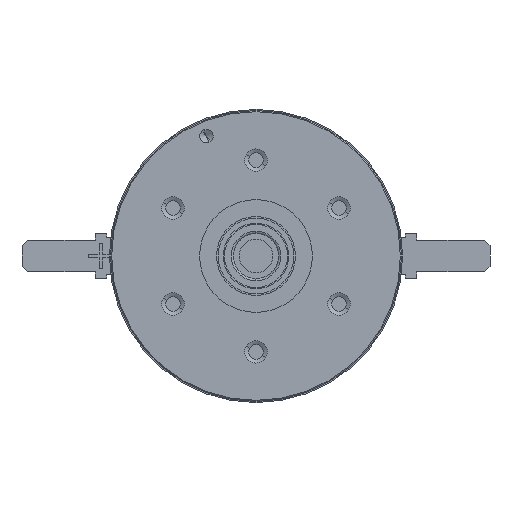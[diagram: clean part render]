
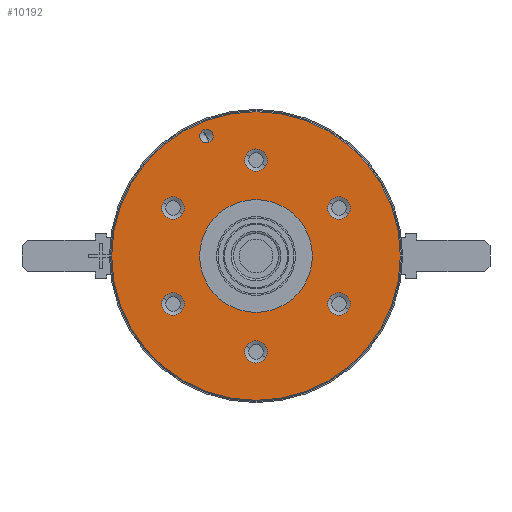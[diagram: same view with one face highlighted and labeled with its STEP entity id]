
A CAD part, left-side view. The second image highlights one B-rep face of the part: STEP entity #10192.
In plain terms, the highlighted planar face has unit normal (-1, 0, 0).
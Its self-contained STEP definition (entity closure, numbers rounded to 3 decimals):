
#7048=VERTEX_POINT('',#20060);
#7356=EDGE_CURVE('',#14700,#16888,#20392,.T.);
#7578=EDGE_CURVE('',#14126,#17198,#20633,.T.);
#8096=EDGE_CURVE('',#10340,#7048,#21225,.T.);
#8116=VERTEX_POINT('',#21247);
#8128=VERTEX_POINT('',#21260);
#8600=EDGE_CURVE('',#17130,#12124,#21784,.T.);
#8654=EDGE_CURVE('',#8116,#12608,#21849,.T.);
#9168=EDGE_CURVE('',#9896,#19436,#22419,.T.);
#9896=VERTEX_POINT('',#23239);
#9968=EDGE_CURVE('',#14922,#15068,#23318,.T.);
#10192=ADVANCED_FACE('',(#23561,#23562,#23563,#23564,#23565,#23566,#23567,#23568,#23569),#23570,.T.);
#10340=VERTEX_POINT('',#23730);
#11530=EDGE_CURVE('',#13012,#17890,#25046,.T.);
#11552=EDGE_CURVE('',#7048,#10340,#25070,.T.);
#12124=VERTEX_POINT('',#25714);
#12608=VERTEX_POINT('',#26246);
#12892=EDGE_CURVE('',#16578,#8128,#26568,.T.);
#13012=VERTEX_POINT('',#26700);
#13610=EDGE_CURVE('',#15068,#14922,#27361,.T.);
#14126=VERTEX_POINT('',#27941);
#14700=VERTEX_POINT('',#28570);
#14922=VERTEX_POINT('',#28811);
#15068=VERTEX_POINT('',#28973);
#15386=EDGE_CURVE('',#17198,#14126,#29326,.T.);
#16170=EDGE_CURVE('',#8128,#16578,#30183,.T.);
#16578=VERTEX_POINT('',#30643);
#16788=EDGE_CURVE('',#16888,#14700,#30871,.T.);
#16888=VERTEX_POINT('',#30977);
#17130=VERTEX_POINT('',#31242);
#17198=VERTEX_POINT('',#31320);
#17202=EDGE_CURVE('',#12124,#17130,#31324,.T.);
#17698=EDGE_CURVE('',#19436,#9896,#31871,.T.);
#17820=EDGE_CURVE('',#17890,#13012,#32006,.T.);
#17890=VERTEX_POINT('',#32088);
#19436=VERTEX_POINT('',#33790);
#19454=EDGE_CURVE('',#12608,#8116,#33809,.T.);
#20060=CARTESIAN_POINT('',(0.,-6.495,4.75));
#20392=CIRCLE('',#35081,1.0);
#20633=CIRCLE('',#35418,0.6);
#21225=CIRCLE('',#36243,1.0);
#21247=CARTESIAN_POINT('',(0.,-6.495,-3.75));
#21260=CARTESIAN_POINT('',(0.,0.866,-8.0));
#21784=CIRCLE('',#37012,5.0);
#21849=CIRCLE('',#37091,1.0);
#22419=CIRCLE('',#37872,1.0);
#23239=CARTESIAN_POINT('',(0.,0.866,9.0));
#23318=CIRCLE('',#39153,12.8);
#23561=FACE_BOUND('',#39479,.T.);
#23562=FACE_OUTER_BOUND('',#39480,.T.);
#23563=FACE_BOUND('',#39481,.T.);
#23564=FACE_BOUND('',#39482,.T.);
#23565=FACE_BOUND('',#39483,.T.);
#23566=FACE_BOUND('',#39484,.T.);
#23567=FACE_BOUND('',#39485,.T.);
#23568=FACE_BOUND('',#39486,.T.);
#23569=FACE_BOUND('',#39487,.T.);
#23570=PLANE('',#39488);
#23730=CARTESIAN_POINT('',(0.,-8.227,3.75));
#25046=CIRCLE('',#41549,1.0);
#25070=CIRCLE('',#41582,1.0);
#25714=CARTESIAN_POINT('',(0.0,0.,-5.0));
#26246=CARTESIAN_POINT('',(0.,-8.227,-4.75));
#26568=CIRCLE('',#43627,1.0);
#26700=CARTESIAN_POINT('',(0.,8.227,4.75));
#27361=CIRCLE('',#44745,12.8);
#27941=CARTESIAN_POINT('',(0.,4.171,10.07));
#28570=CARTESIAN_POINT('',(0.,8.227,-3.75));
#28811=CARTESIAN_POINT('',(0.0,0.,-12.8));
#28973=CARTESIAN_POINT('',(0.0,0.0,12.8));
#29326=CIRCLE('',#47483,0.6);
#30183=CIRCLE('',#48651,1.0);
#30643=CARTESIAN_POINT('',(0.,-0.866,-9.0));
#30871=CIRCLE('',#49595,1.0);
#30977=CARTESIAN_POINT('',(0.,6.495,-4.75));
#31242=CARTESIAN_POINT('',(0.0,0.0,5.0));
#31320=CARTESIAN_POINT('',(0.,4.63,11.179));
#31324=CIRCLE('',#50225,5.0);
#31871=CIRCLE('',#50997,1.0);
#32006=CIRCLE('',#51186,1.0);
#32088=CARTESIAN_POINT('',(0.,6.495,3.75));
#33790=CARTESIAN_POINT('',(0.,-0.866,8.0));
#33809=CIRCLE('',#53712,1.0);
#35081=AXIS2_PLACEMENT_3D('',#54679,#54680,#54681);
#35418=AXIS2_PLACEMENT_3D('',#54910,#54911,#54912);
#36243=AXIS2_PLACEMENT_3D('',#55700,#55701,#55702);
#37012=AXIS2_PLACEMENT_3D('',#56346,#56347,#56348);
#37091=AXIS2_PLACEMENT_3D('',#56464,#56465,#56466);
#37872=AXIS2_PLACEMENT_3D('',#57107,#57108,#57109);
#39153=AXIS2_PLACEMENT_3D('',#58408,#58409,#58410);
#39479=EDGE_LOOP('',(#58641,#58642));
#39480=EDGE_LOOP('',(#58643,#58644));
#39481=EDGE_LOOP('',(#58645,#58646));
#39482=EDGE_LOOP('',(#58647,#58648));
#39483=EDGE_LOOP('',(#58649,#58650));
#39484=EDGE_LOOP('',(#58651,#58652));
#39485=EDGE_LOOP('',(#58653,#58654));
#39486=EDGE_LOOP('',(#58655,#58656));
#39487=EDGE_LOOP('',(#58657,#58658));
#39488=AXIS2_PLACEMENT_3D('',#58659,#58660,#58661);
#41549=AXIS2_PLACEMENT_3D('',#60357,#60358,#60359);
#41582=AXIS2_PLACEMENT_3D('',#60380,#60381,#60382);
#43627=AXIS2_PLACEMENT_3D('',#62166,#62167,#62168);
#44745=AXIS2_PLACEMENT_3D('',#63108,#63109,#63110);
#47483=AXIS2_PLACEMENT_3D('',#65391,#65392,#65393);
#48651=AXIS2_PLACEMENT_3D('',#66377,#66378,#66379);
#49595=AXIS2_PLACEMENT_3D('',#67206,#67207,#67208);
#50225=AXIS2_PLACEMENT_3D('',#67696,#67697,#67698);
#50997=AXIS2_PLACEMENT_3D('',#68293,#68294,#68295);
#51186=AXIS2_PLACEMENT_3D('',#68456,#68457,#68458);
#53712=AXIS2_PLACEMENT_3D('',#70447,#70448,#70449);
#54679=CARTESIAN_POINT('',(0.,7.361,-4.25));
#54680=DIRECTION('',(1.0,0.0,-0.0));
#54681=DIRECTION('',(0.0,0.866,0.5));
#54910=CARTESIAN_POINT('',(0.,4.401,10.625));
#54911=DIRECTION('',(1.0,0.0,0.0));
#54912=DIRECTION('',(0.0,-0.383,-0.924));
#55700=CARTESIAN_POINT('',(0.,-7.361,4.25));
#55701=DIRECTION('',(1.0,0.0,-0.0));
#55702=DIRECTION('',(0.0,0.866,0.5));
#56346=CARTESIAN_POINT('',(0.0,0.0,0.0));
#56347=DIRECTION('',(1.0,0.0,-0.0));
#56348=DIRECTION('',(0.0,0.0,1.0));
#56464=CARTESIAN_POINT('',(0.,-7.361,-4.25));
#56465=DIRECTION('',(1.0,0.0,-0.0));
#56466=DIRECTION('',(0.0,0.866,0.5));
#57107=CARTESIAN_POINT('',(0.,0.0,8.5));
#57108=DIRECTION('',(1.0,0.0,-0.0));
#57109=DIRECTION('',(0.0,0.866,0.5));
#58408=CARTESIAN_POINT('',(0.0,0.0,0.0));
#58409=DIRECTION('',(-1.0,0.0,0.0));
#58410=DIRECTION('',(0.0,0.0,1.0));
#58641=ORIENTED_EDGE('',*,*,#7578,.T.);
#58642=ORIENTED_EDGE('',*,*,#15386,.T.);
#58643=ORIENTED_EDGE('',*,*,#13610,.T.);
#58644=ORIENTED_EDGE('',*,*,#9968,.T.);
#58645=ORIENTED_EDGE('',*,*,#7356,.T.);
#58646=ORIENTED_EDGE('',*,*,#16788,.T.);
#58647=ORIENTED_EDGE('',*,*,#16170,.T.);
#58648=ORIENTED_EDGE('',*,*,#12892,.T.);
#58649=ORIENTED_EDGE('',*,*,#8654,.T.);
#58650=ORIENTED_EDGE('',*,*,#19454,.T.);
#58651=ORIENTED_EDGE('',*,*,#11552,.T.);
#58652=ORIENTED_EDGE('',*,*,#8096,.T.);
#58653=ORIENTED_EDGE('',*,*,#9168,.T.);
#58654=ORIENTED_EDGE('',*,*,#17698,.T.);
#58655=ORIENTED_EDGE('',*,*,#11530,.T.);
#58656=ORIENTED_EDGE('',*,*,#17820,.T.);
#58657=ORIENTED_EDGE('',*,*,#8600,.T.);
#58658=ORIENTED_EDGE('',*,*,#17202,.T.);
#58659=CARTESIAN_POINT('',(0.0,0.0,8.95));
#58660=DIRECTION('',(-1.0,-0.0,-0.0));
#58661=DIRECTION('',(0.0,0.0,-1.0));
#60357=CARTESIAN_POINT('',(0.,7.361,4.25));
#60358=DIRECTION('',(1.0,0.0,-0.0));
#60359=DIRECTION('',(0.0,0.866,0.5));
#60380=CARTESIAN_POINT('',(0.,-7.361,4.25));
#60381=DIRECTION('',(1.0,0.0,-0.0));
#60382=DIRECTION('',(0.0,0.866,0.5));
#62166=CARTESIAN_POINT('',(0.,0.0,-8.5));
#62167=DIRECTION('',(1.0,0.0,-0.0));
#62168=DIRECTION('',(0.0,0.866,0.5));
#63108=CARTESIAN_POINT('',(0.0,0.0,0.0));
#63109=DIRECTION('',(-1.0,0.0,0.0));
#63110=DIRECTION('',(0.0,0.0,1.0));
#65391=CARTESIAN_POINT('',(0.,4.401,10.625));
#65392=DIRECTION('',(1.0,0.0,0.0));
#65393=DIRECTION('',(0.0,-0.383,-0.924));
#66377=CARTESIAN_POINT('',(0.,0.0,-8.5));
#66378=DIRECTION('',(1.0,0.0,-0.0));
#66379=DIRECTION('',(0.0,0.866,0.5));
#67206=CARTESIAN_POINT('',(0.,7.361,-4.25));
#67207=DIRECTION('',(1.0,0.0,-0.0));
#67208=DIRECTION('',(0.0,0.866,0.5));
#67696=CARTESIAN_POINT('',(0.0,0.0,0.0));
#67697=DIRECTION('',(1.0,0.0,-0.0));
#67698=DIRECTION('',(0.0,0.0,1.0));
#68293=CARTESIAN_POINT('',(0.,0.0,8.5));
#68294=DIRECTION('',(1.0,0.0,-0.0));
#68295=DIRECTION('',(0.0,0.866,0.5));
#68456=CARTESIAN_POINT('',(0.,7.361,4.25));
#68457=DIRECTION('',(1.0,0.0,-0.0));
#68458=DIRECTION('',(0.0,0.866,0.5));
#70447=CARTESIAN_POINT('',(0.,-7.361,-4.25));
#70448=DIRECTION('',(1.0,0.0,-0.0));
#70449=DIRECTION('',(0.0,0.866,0.5));
